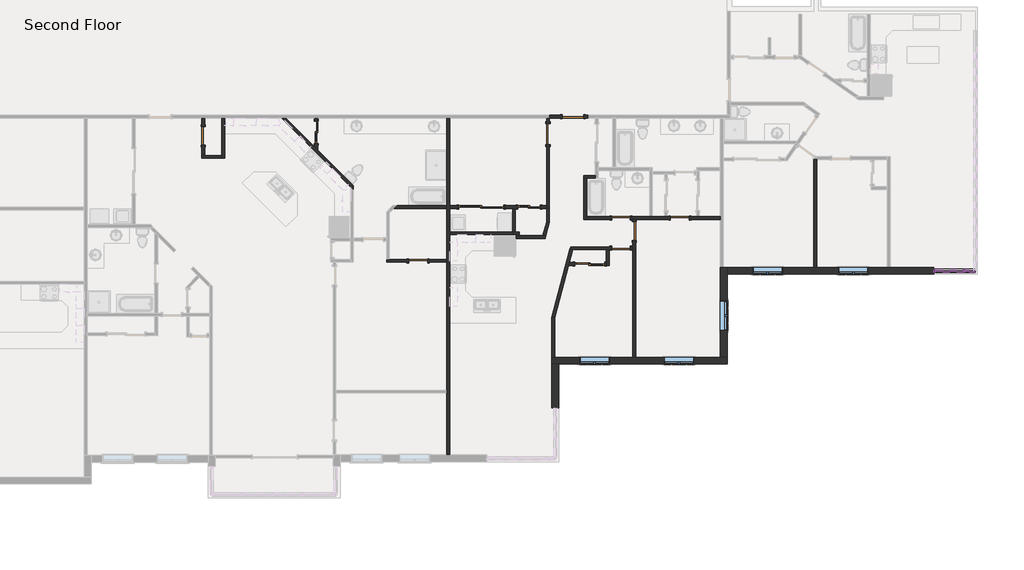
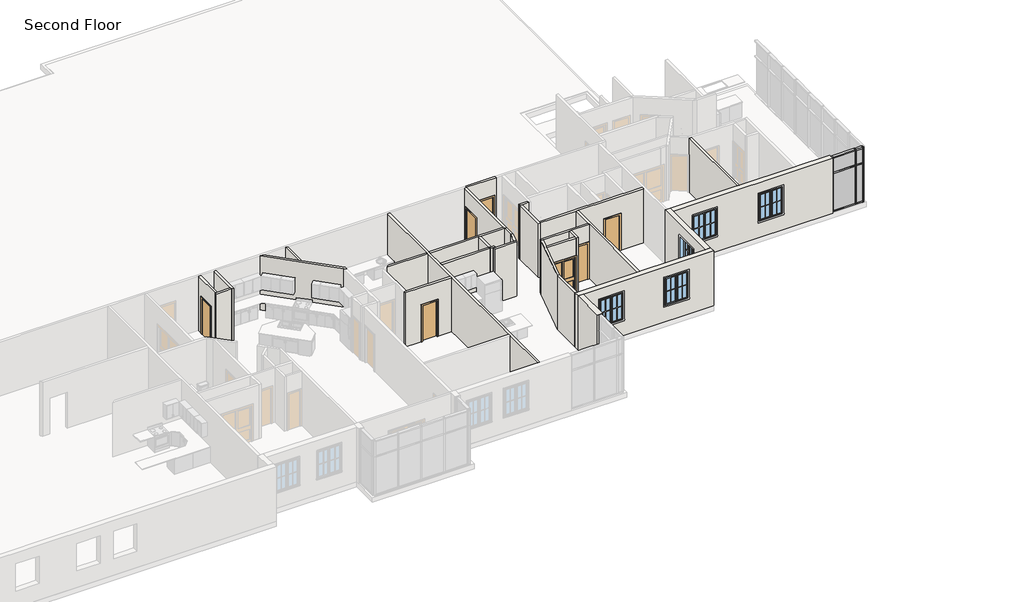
# One storey, part 5 of 17: 32 walls, 12 doors, 12 members, 5 windows, 4 plates.
"""IFC4 building model written with IfcOpenShell, lengths in millimetres."""

from ifc_helpers import new_model, si_unit, frame, origin, place, context, project, spatial, polyline, outline, extrude, faceted_brep, transform, mapped, element, save
from components import door_d8f5dbb5, door_f2b275c1, door_825b8444, door_c29894e6, door_88c23cd7, door_900f836f, door_caaf2a11, rectangular_mullion_rectangular_mullion_1_fa3625a1, rectangular_mullion_rectangular_mullion_1_7cbf0b94, rectangular_mullion_rectangular_mullion_1_6186cc23, rectangular_mullion_rectangular_mullion_1_049a2e78, rectangular_mullion_rectangular_mullion_1_a50b3cda, rectangular_mullion_rectangular_mullion_1_5cd4c5ac, rectangular_mullion_rectangular_mullion_1_64aff199, rectangular_mullion_rectangular_mullion_1_b6c962ab, system_panel_glazed_0ed27d1d, system_panel_glazed_134bacdb, system_panel_glazed_a3383988, system_panel_glazed_d9a092fd, window_33528cc2

model = new_model("IFC4")

# Units and contexts
model_context = context("Model", 3, world=origin())
ifc_project = project(units=[si_unit("LENGTHUNIT", "METRE", prefix="MILLI")], contexts=[model_context])

# Site, building, storey
site = spatial("IfcSite", under=ifc_project)
building = spatial("IfcBuilding", under=site)
storey = spatial("IfcBuildingStorey", under=building, Name="Second Floor", Elevation=3048.0)

# Doors
placement = place(None, origin())
door_shape = door_d8f5dbb5(model_context)
element("IfcDoor", 1, ObjectType="Single-Flush : 30\" x 80\"", at=placement, inside=storey, context=model_context, shape_type="MappedRepresentation", body=[
    mapped(door_shape, transform((40944.0341819, -10517.1896208, 3048.0), x_axis=(1.0, 0.0, 0.0), y_axis=(0.0, 1.0, 0.0), z_axis=(0.0, 0.0, 1.0))),
])
element("IfcDoor", 2, ObjectType="Single-Flush : 30\" x 80\"", at=placement, inside=storey, context=model_context, shape_type="MappedRepresentation", body=[
    mapped(door_shape, transform((32213.1466966, -5438.7917963, 3048.0), x_axis=(0.0, 1.0, 0.0), y_axis=(-1.0, 0.0, 0.0), z_axis=(0.0, 0.0, 1.0))),
])
door_2_shape = door_f2b275c1(model_context)
element("IfcDoor", 3, ObjectType="Single-Flush : 30\" x 80\"", at=placement, inside=storey, context=model_context, shape_type="MappedRepresentation", body=[
    mapped(door_2_shape, transform((49185.2164857, -10003.6934793, 3048.0), x_axis=(1.0, 0.0, 0.0), y_axis=(0.0, 1.0, 0.0), z_axis=(0.0, 0.0, 1.0))),
])
element("IfcDoor", 4, ObjectType="Single-Flush : 30\" x 80\"", at=placement, inside=storey, context=model_context, shape_type="MappedRepresentation", body=[
    mapped(door_2_shape, transform((49722.0869446, -9306.0763206, 3048.0), x_axis=(0.0, 1.0, 0.0), y_axis=(-1.0, 0.0, 0.0), z_axis=(0.0, 0.0, 1.0))),
])
element("IfcDoor", 5, ObjectType="Single-Flush : 30\" x 80\"", at=placement, inside=storey, context=model_context, shape_type="MappedRepresentation", body=[
    mapped(door_2_shape, transform((51578.0008306, -8772.6763206, 3048.0), x_axis=(-1.0, 0.0, 0.0), y_axis=(0.0, -1.0, 0.0), z_axis=(0.0, 0.0, 1.0))),
])
element("IfcDoor", 6, ObjectType="Single-Flush : 30\" x 80\"", at=placement, inside=storey, context=model_context, shape_type="MappedRepresentation", body=[
    mapped(door_2_shape, transform((49188.6869446, -8772.6763206, 3048.0), x_axis=(-1.0, 0.0, 0.0), y_axis=(0.0, -1.0, 0.0), z_axis=(0.0, 0.0, 1.0))),
])
door_3_shape = door_825b8444(model_context)
element("IfcDoor", 7, ObjectType="Single-Flush : 34\" x 80\"", at=placement, inside=storey, context=model_context, shape_type="MappedRepresentation", body=[
    mapped(door_3_shape, transform((47235.4550668, -4651.3917963, 3048.0), x_axis=(1.0, 0.0, 0.0), y_axis=(0.0, 1.0, 0.0), z_axis=(0.0, 0.0, 1.0))),
])
door_4_shape = door_c29894e6(model_context)
element("IfcDoor", 8, ObjectType="Single-Flush : 34\" x 80\"", at=placement, inside=storey, context=model_context, shape_type="MappedRepresentation", body=[
    mapped(door_4_shape, transform((46219.4550668, -5362.5917963, 3048.0), x_axis=(0.0, 1.0, 0.0), y_axis=(-1.0, 0.0, 0.0), z_axis=(0.0, 0.0, 1.0))),
])
door_5_shape = door_88c23cd7(model_context)
element("IfcDoor", 9, ObjectType="Sliding-Closet : 36\" x 80\"", at=placement, inside=storey, context=model_context, shape_type="MappedRepresentation", body=[
    mapped(door_5_shape, transform((45452.5275875, -8462.220689, 3048.0), x_axis=(1.0, 0.0, 0.0), y_axis=(0.0, 1.0, 0.0), z_axis=(0.0, 0.0, 1.0))),
])
element("IfcDoor", 10, ObjectType="Sliding-Closet : 36\" x 80\"", at=placement, inside=storey, context=model_context, shape_type="MappedRepresentation", body=[
    mapped(door_5_shape, transform((36679.0005062, -5286.3917963, 3048.0), x_axis=(0.0, -1.0, 0.0), y_axis=(1.0, 0.0, 0.0), z_axis=(0.0, 0.0, 1.0))),
])
door_6_shape = door_900f836f(model_context)
element("IfcDoor", 11, ObjectType="Sliding-Closet : 48\" x 80\"", at=placement, inside=storey, context=model_context, shape_type="MappedRepresentation", body=[
    mapped(door_6_shape, transform((47911.7460269, -10519.7402375, 3048.0), x_axis=(-1.0, 0.0, 0.0), y_axis=(0.0, -1.0, 0.0), z_axis=(0.0, 0.0, 1.0))),
])
door_7_shape = door_caaf2a11(model_context)
element("IfcDoor", 12, ObjectType="Sliding-Closet : 72\" x 80\"", at=placement, inside=storey, context=model_context, shape_type="MappedRepresentation", body=[
    mapped(door_7_shape, transform((43502.5485687, -8462.220689, 3048.0), x_axis=(1.0, 0.0, 0.0), y_axis=(0.0, 1.0, 0.0), z_axis=(0.0, 0.0, 1.0))),
])

# Members
rectangular_mullion_rectangular_mullion_1_shape = rectangular_mullion_rectangular_mullion_1_fa3625a1(model_context)
element("IfcMember", 13, ObjectType="Rectangular Mullion : Rectangular Mullion 1", at=placement, inside=storey, context=model_context, shape_type="MappedRepresentation", body=[
    mapped(rectangular_mullion_rectangular_mullion_1_shape, transform((63120.5712707, -10920.5254097, 6096.0), x_axis=(0.0, 0.0, 1.0), y_axis=(0.0, -1.0, 0.0), z_axis=(1.0, 0.0, 0.0))),
])
element("IfcMember", 14, ObjectType="Rectangular Mullion : Rectangular Mullion 1", at=placement, inside=storey, context=model_context, shape_type="MappedRepresentation", body=[
    mapped(rectangular_mullion_rectangular_mullion_1_shape, transform((61964.8712704, -10920.5254097, 3048.0), x_axis=(0.0, 0.0, -1.0), y_axis=(0.0, -1.0, 0.0), z_axis=(-1.0, 0.0, 0.0))),
])
rectangular_mullion_rectangular_mullion_1_2_shape = rectangular_mullion_rectangular_mullion_1_7cbf0b94(model_context)
element("IfcMember", 15, ObjectType="Rectangular Mullion : Rectangular Mullion 1", at=placement, inside=storey, context=model_context, shape_type="MappedRepresentation", body=[
    mapped(rectangular_mullion_rectangular_mullion_1_2_shape, transform((63120.5712707, -10920.5254097, 5213.35), x_axis=(0.0, 0.0, 1.0), y_axis=(0.0, -1.0, 0.0), z_axis=(1.0, 0.0, 0.0))),
])
rectangular_mullion_rectangular_mullion_1_3_shape = rectangular_mullion_rectangular_mullion_1_6186cc23(model_context)
element("IfcMember", 16, ObjectType="Rectangular Mullion : Rectangular Mullion 1", at=placement, inside=storey, context=model_context, shape_type="MappedRepresentation", body=[
    mapped(rectangular_mullion_rectangular_mullion_1_3_shape, transform((63152.3212707, -10920.5254097, 3048.0), x_axis=(1.0, 0.0, 0.0), y_axis=(0.0, -1.0, 0.0), z_axis=(0.0, 0.0, -1.0))),
])
rectangular_mullion_rectangular_mullion_1_4_shape = rectangular_mullion_rectangular_mullion_1_049a2e78(model_context)
element("IfcMember", 17, ObjectType="Rectangular Mullion : Rectangular Mullion 1", at=placement, inside=storey, context=model_context, shape_type="MappedRepresentation", body=[
    mapped(rectangular_mullion_rectangular_mullion_1_4_shape, transform((63152.3212707, -10920.5254097, 5213.35), x_axis=(1.0, 0.0, 0.0), y_axis=(0.0, -1.0, 0.0), z_axis=(0.0, 0.0, -1.0))),
])
rectangular_mullion_rectangular_mullion_1_5_shape = rectangular_mullion_rectangular_mullion_1_a50b3cda(model_context)
element("IfcMember", 18, ObjectType="Rectangular Mullion : Rectangular Mullion 1", at=placement, inside=storey, context=model_context, shape_type="MappedRepresentation", body=[
    mapped(rectangular_mullion_rectangular_mullion_1_5_shape, transform((63577.7712704, -10920.5254097, 3048.0), x_axis=(1.0, 0.0, 0.0), y_axis=(0.0, -1.0, 0.0), z_axis=(0.0, 0.0, -1.0))),
])
rectangular_mullion_rectangular_mullion_1_6_shape = rectangular_mullion_rectangular_mullion_1_5cd4c5ac(model_context)
element("IfcMember", 19, ObjectType="Rectangular Mullion : Rectangular Mullion 1", at=placement, inside=storey, context=model_context, shape_type="MappedRepresentation", body=[
    mapped(rectangular_mullion_rectangular_mullion_1_6_shape, transform((63577.7712704, -10920.5254097, 5213.35), x_axis=(1.0, 0.0, 0.0), y_axis=(0.0, -1.0, 0.0), z_axis=(0.0, 0.0, -1.0))),
])
element("IfcMember", 20, ObjectType="Rectangular Mullion : Rectangular Mullion 1", at=placement, inside=storey, context=model_context, shape_type="MappedRepresentation", body=[
    mapped(rectangular_mullion_rectangular_mullion_1_6_shape, transform((61901.3712704, -10920.5254097, 6096.0), x_axis=(-1.0, 0.0, 0.0), y_axis=(0.0, -1.0, 0.0), z_axis=(0.0, 0.0, 1.0))),
])
element("IfcMember", 21, ObjectType="Rectangular Mullion : Rectangular Mullion 1", at=placement, inside=storey, context=model_context, shape_type="MappedRepresentation", body=[
    mapped(rectangular_mullion_rectangular_mullion_1_5_shape, transform((61901.3712704, -10920.5254097, 5213.35), x_axis=(-1.0, 0.0, 0.0), y_axis=(0.0, -1.0, 0.0), z_axis=(0.0, 0.0, 1.0))),
])
rectangular_mullion_rectangular_mullion_1_7_shape = rectangular_mullion_rectangular_mullion_1_64aff199(model_context)
element("IfcMember", 22, ObjectType="Rectangular Mullion : Rectangular Mullion 1", at=placement, inside=storey, context=model_context, shape_type="MappedRepresentation", body=[
    mapped(rectangular_mullion_rectangular_mullion_1_7_shape, transform((63514.2712704, -10920.5254097, 6096.0), x_axis=(0.0, 0.0, 1.0), y_axis=(0.0, -1.0, 0.0), z_axis=(1.0, 0.0, 0.0))),
])
element("IfcMember", 23, ObjectType="Rectangular Mullion : Rectangular Mullion 1", at=placement, inside=storey, context=model_context, shape_type="MappedRepresentation", body=[
    mapped(rectangular_mullion_rectangular_mullion_1_7_shape, transform((63184.0712707, -10920.5254097, 3048.0), x_axis=(0.0, 0.0, -1.0), y_axis=(0.0, -1.0, 0.0), z_axis=(-1.0, 0.0, 0.0))),
])
rectangular_mullion_rectangular_mullion_1_8_shape = rectangular_mullion_rectangular_mullion_1_b6c962ab(model_context)
element("IfcMember", 24, ObjectType="Rectangular Mullion : Rectangular Mullion 1", at=placement, inside=storey, context=model_context, shape_type="MappedRepresentation", body=[
    mapped(rectangular_mullion_rectangular_mullion_1_8_shape, transform((63514.2712704, -10920.5254097, 5213.35), x_axis=(0.0, 0.0, 1.0), y_axis=(0.0, -1.0, 0.0), z_axis=(1.0, 0.0, 0.0))),
])

# Plates
system_panel_glazed_shape = system_panel_glazed_0ed27d1d(model_context)
element("IfcPlate", 25, ObjectType="System Panel : Glazed", at=placement, inside=storey, context=model_context, shape_type="MappedRepresentation", body=[
    mapped(system_panel_glazed_shape, transform((62542.7212705, -10920.5254097, 3111.5), x_axis=(1.0, 0.0, 0.0), y_axis=(0.0, 1.0, 0.0), z_axis=(0.0, 0.0, 1.0))),
])
system_panel_glazed_2_shape = system_panel_glazed_134bacdb(model_context)
element("IfcPlate", 26, ObjectType="System Panel : Glazed", at=placement, inside=storey, context=model_context, shape_type="MappedRepresentation", body=[
    mapped(system_panel_glazed_2_shape, transform((62542.7212705, -10920.5254097, 5245.1), x_axis=(1.0, 0.0, 0.0), y_axis=(0.0, 1.0, 0.0), z_axis=(0.0, 0.0, 1.0))),
])
system_panel_glazed_3_shape = system_panel_glazed_a3383988(model_context)
element("IfcPlate", 27, ObjectType="System Panel : Glazed", at=placement, inside=storey, context=model_context, shape_type="MappedRepresentation", body=[
    mapped(system_panel_glazed_3_shape, transform((63349.1712705, -10920.5254097, 3111.5), x_axis=(1.0, 0.0, 0.0), y_axis=(0.0, 1.0, 0.0), z_axis=(0.0, 0.0, 1.0))),
])
system_panel_glazed_4_shape = system_panel_glazed_d9a092fd(model_context)
element("IfcPlate", 28, ObjectType="System Panel : Glazed", at=placement, inside=storey, context=model_context, shape_type="MappedRepresentation", body=[
    mapped(system_panel_glazed_4_shape, transform((63349.1712705, -10920.5254097, 5245.1), x_axis=(1.0, 0.0, 0.0), y_axis=(0.0, 1.0, 0.0), z_axis=(0.0, 0.0, 1.0))),
])

# Walls
element("IfcWall", 29, ObjectType="Exterior - Brick on Wood Stud", at=placement, inside=storey, context=model_context, shape_type="Brep", body=[
    faceted_brep([(46370.0422255, -14719.4129097, 3048.0), (46652.6172255, -14719.4129097, 3048.0), (53508.2587704, -14719.4129097, 3048.0), (53508.2587704, -14719.4129097, 6096.0), (46652.6172255, -14719.4129097, 6096.0), (46370.0422255, -14719.4129097, 6096.0), (50934.9291075, -14719.4129097, 5486.4), (52154.1291075, -14719.4129097, 5486.4), (52154.1291075, -14719.4129097, 3962.4), (50934.9291075, -14719.4129097, 3962.4), (47507.1083351, -14719.4129097, 5486.4), (48726.3083351, -14719.4129097, 5486.4), (48726.3083351, -14719.4129097, 3962.4), (47507.1083351, -14719.4129097, 3962.4), (46370.0422255, -14436.8379097, 3048.0), (46370.0422255, -14436.8379097, 6096.0), (46484.3422255, -14436.8379097, 6096.0), (49664.9369446, -14436.8379097, 6096.0), (49779.2369446, -14436.8379097, 6096.0), (53225.6837704, -14436.8379097, 6096.0), (53508.2587704, -14436.8379097, 6096.0), (53508.2587704, -14436.8379097, 3048.0), (53225.6837704, -14436.8379097, 3048.0), (49779.2369446, -14436.8379097, 3048.0), (49664.9369446, -14436.8379097, 3048.0), (46484.3422255, -14436.8379097, 3048.0), (50934.9291075, -14436.8379097, 5486.4), (50934.9291075, -14436.8379097, 3962.4), (52154.1291075, -14436.8379097, 3962.4), (52154.1291075, -14436.8379097, 5486.4), (47507.1083351, -14436.8379097, 5486.4), (47507.1083351, -14436.8379097, 3962.4), (48726.3083351, -14436.8379097, 3962.4), (48726.3083351, -14436.8379097, 5486.4)], [[[0, 1, 2, 3, 4, 5], [6, 7, 8, 9], [10, 11, 12, 13]], [[14, 15, 16, 17, 18, 19, 20, 21, 22, 23, 24, 25], [26, 27, 28, 29], [30, 31, 32, 33]], [[2, 1, 0, 14, 25, 24, 23, 22, 21]], [[5, 4, 3, 20, 19, 18, 17, 16, 15]], [[27, 26, 6, 9]], [[28, 27, 9, 8]], [[29, 28, 8, 7]], [[26, 29, 7, 6]], [[31, 30, 10, 13]], [[32, 31, 13, 12]], [[33, 32, 12, 11]], [[30, 33, 11, 10]], [[0, 5, 15, 14]], [[3, 2, 21, 20]]]),
])
element("IfcWall", 30, ObjectType="Exterior - Brick on Wood Stud", at=placement, inside=storey, context=model_context, shape_type="Brep", body=[
    faceted_brep([(53508.2587704, -14436.8379097, 3048.0), (53508.2587704, -11061.8129097, 3048.0), (53508.2587704, -10779.2379097, 3048.0), (53508.2587704, -10779.2379097, 6096.0), (53508.2587704, -11061.8129097, 6096.0), (53508.2587704, -14436.8379097, 6096.0), (53508.2587704, -13358.9254097, 5486.4), (53508.2587704, -12139.7254097, 5486.4), (53508.2587704, -12139.7254097, 3962.4), (53508.2587704, -13358.9254097, 3962.4), (53225.6837704, -14436.8379097, 3048.0), (53225.6837704, -14436.8379097, 6096.0), (53225.6837704, -10779.2379097, 6096.0), (53225.6837704, -10779.2379097, 3048.0), (53225.6837704, -13358.9254097, 5486.4), (53225.6837704, -13358.9254097, 3962.4), (53225.6837704, -12139.7254097, 3962.4), (53225.6837704, -12139.7254097, 5486.4), (53339.9837704, -10779.2379097, 3048.0), (53339.9837704, -10779.2379097, 6096.0)], [[[0, 1, 2, 3, 4, 5], [6, 7, 8, 9]], [[10, 11, 12, 13], [14, 15, 16, 17]], [[2, 1, 0, 10, 13, 18]], [[5, 4, 3, 19, 12, 11]], [[15, 14, 6, 9]], [[16, 15, 9, 8]], [[17, 16, 8, 7]], [[14, 17, 7, 6]], [[3, 2, 18, 13, 12, 19]], [[0, 5, 11, 10]]]),
])
element("IfcWall", 31, ObjectType="Exterior - Brick on Wood Stud", at=placement, inside=storey, context=model_context, shape_type="Brep", body=[
    faceted_brep([(53508.2587704, -11061.8129097, 3048.0), (61901.3712704, -11061.8129097, 3048.0), (61901.3712704, -11061.8129097, 6096.0), (53508.2587704, -11061.8129097, 6096.0), (58021.3646499, -11061.8129097, 5486.4), (59240.5646499, -11061.8129097, 5486.4), (59240.5646499, -11061.8129097, 3962.4), (58021.3646499, -11061.8129097, 3962.4), (54535.3712704, -11061.8129097, 5486.4), (55754.5712704, -11061.8129097, 5486.4), (55754.5712704, -11061.8129097, 3962.4), (54535.3712704, -11061.8129097, 3962.4), (53508.2587704, -10779.2379097, 3048.0), (53508.2587704, -10779.2379097, 6096.0), (57029.5575892, -10779.2379097, 6096.0), (57143.8575892, -10779.2379097, 6096.0), (60016.4717107, -10779.2379097, 6096.0), (60130.7717107, -10779.2379097, 6096.0), (61901.3712704, -10779.2379097, 6096.0), (61901.3712704, -10779.2379097, 3048.0), (60130.7717107, -10779.2379097, 3048.0), (60016.4717107, -10779.2379097, 3048.0), (57143.8575892, -10779.2379097, 3048.0), (57029.5575892, -10779.2379097, 3048.0), (58021.3646499, -10779.2379097, 5486.4), (58021.3646499, -10779.2379097, 3962.4), (59240.5646499, -10779.2379097, 3962.4), (59240.5646499, -10779.2379097, 5486.4), (54535.3712704, -10779.2379097, 5486.4), (54535.3712704, -10779.2379097, 3962.4), (55754.5712704, -10779.2379097, 3962.4), (55754.5712704, -10779.2379097, 5486.4)], [[[0, 1, 2, 3], [4, 5, 6, 7], [8, 9, 10, 11]], [[12, 13, 14, 15, 16, 17, 18, 19, 20, 21, 22, 23], [24, 25, 26, 27], [28, 29, 30, 31]], [[1, 0, 12, 23, 22, 21, 20, 19]], [[2, 1, 19, 18]], [[3, 2, 18, 17, 16, 15, 14, 13]], [[25, 24, 4, 7]], [[26, 25, 7, 6]], [[27, 26, 6, 5]], [[24, 27, 5, 4]], [[29, 28, 8, 11]], [[30, 29, 11, 10]], [[31, 30, 10, 9]], [[28, 31, 9, 8]], [[0, 3, 13, 12]]]),
])
element("IfcWall", 32, ObjectType="Exterior - Brick on Wood Stud", at=placement, inside=storey, context=model_context, shape_type="SweptSolid", body=[
    extrude(outline(polyline([(46652.6172255, -14719.4129097), (46652.6172255, -16495.3488497), (46370.0422255, -16495.3488497), (46370.0422255, -14719.4129097), (46652.6172255, -14719.4129097)])), frame((0.0, 0.0, 3048.0), z_axis=(0.0, 0.0, 1.0), x_axis=(1.0, 0.0, 0.0)), (0.0, 0.0, 1.0), 3048.0),
])
element("IfcWall", 33, ObjectType="Interior - 4 1/2\" Partition", at=placement, inside=storey, context=model_context, shape_type="Brep", body=[
    faceted_brep([(42109.9470292, -4708.5417963, 3048.0), (42109.9470292, -8278.070689, 3048.0), (42109.9470292, -8392.370689, 3048.0), (42109.9470292, -10460.0396208, 3048.0), (42109.9470292, -10574.3396208, 3048.0), (42109.9470292, -15784.9064679, 3048.0), (42109.9470292, -15899.2064679, 3048.0), (42109.9470292, -18414.3743072, 3048.0), (42109.9470292, -18414.3743072, 6096.0), (42109.9470292, -15899.2064679, 6096.0), (42109.9470292, -15784.9064679, 6096.0), (42109.9470292, -10574.3396208, 6096.0), (42109.9470292, -10460.0396208, 6096.0), (42109.9470292, -8392.370689, 6096.0), (42109.9470292, -8278.070689, 6096.0), (42109.9470292, -4708.5417963, 6096.0), (42224.2470292, -4708.5417963, 3048.0), (42224.2470292, -4708.5417963, 6096.0), (42224.2470292, -8278.070689, 6096.0), (42224.2470292, -8392.370689, 6096.0), (42224.2470292, -9338.0876998, 6096.0), (42224.2470292, -9452.3876998, 6096.0), (42224.2470292, -18414.3743072, 6096.0), (42224.2470292, -18414.3743072, 3048.0), (42224.2470292, -9452.3876998, 3048.0), (42224.2470292, -9338.0876998, 3048.0), (42224.2470292, -8392.370689, 3048.0), (42224.2470292, -8278.070689, 3048.0)], [[[0, 1, 2, 3, 4, 5, 6, 7, 8, 9, 10, 11, 12, 13, 14, 15]], [[16, 17, 18, 19, 20, 21, 22, 23, 24, 25, 26, 27]], [[7, 6, 5, 4, 3, 2, 1, 0, 16, 27, 26, 25, 24, 23]], [[15, 14, 13, 12, 11, 10, 9, 8, 22, 21, 20, 19, 18, 17]], [[0, 15, 17, 16]], [[8, 7, 23, 22]]]),
])
element("IfcWall", 34, ObjectType="Interior - 4 1/2\" Partition", at=placement, inside=storey, context=model_context, shape_type="Brep", body=[
    faceted_brep([(38310.9505062, -7451.1325257, 3048.0), (36863.1505062, -6003.3325257, 3048.0), (36748.8505062, -5889.0325257, 3048.0), (35568.3597768, -4708.5417963, 3048.0), (35568.3597768, -4708.5417963, 6096.0), (36748.8505062, -5889.0325257, 6096.0), (36863.1505062, -6003.3325257, 6096.0), (38310.9505062, -7451.1325257, 6096.0), (38310.9505062, -7612.7771359, 3048.0), (38310.9505062, -7612.7771359, 6096.0), (38196.6505062, -7498.4771359, 6096.0), (35406.7151666, -4708.5417963, 6096.0), (35406.7151666, -4708.5417963, 3048.0), (38196.6505062, -7498.4771359, 3048.0)], [[[0, 1, 2, 3, 4, 5, 6, 7]], [[8, 9, 10, 11, 12, 13]], [[3, 2, 1, 0, 8, 13, 12]], [[7, 6, 5, 4, 11, 10, 9]], [[0, 7, 9, 8]], [[4, 3, 12, 11]]]),
])
element("IfcWall", 35, ObjectType="Interior - 4 1/2\" Partition", at=placement, inside=storey, context=model_context, shape_type="Brep", body=[
    faceted_brep([(42109.9470292, -10460.0396208, 3048.0), (41325.0341819, -10460.0396208, 3048.0), (41325.0341819, -10460.0396208, 5080.0), (40563.0341819, -10460.0396208, 5080.0), (40563.0341819, -10460.0396208, 3048.0), (39778.1213345, -10460.0396208, 3048.0), (39663.8213345, -10460.0396208, 3048.0), (39663.8213345, -10460.0396208, 6096.0), (39778.1213345, -10460.0396208, 6096.0), (42109.9470292, -10460.0396208, 6096.0), (41325.0341819, -10574.3396208, 5080.0), (41325.0341819, -10574.3396208, 3048.0), (42109.9470292, -10574.3396208, 3048.0), (42109.9470292, -10574.3396208, 6096.0), (39663.8213345, -10574.3396208, 6096.0), (39663.8213345, -10574.3396208, 3048.0), (40563.0341819, -10574.3396208, 3048.0), (40563.0341819, -10574.3396208, 5080.0)], [[[0, 1, 2, 3, 4, 5, 6, 7, 8, 9]], [[10, 11, 12, 13, 14, 15, 16, 17]], [[16, 15, 6, 5, 4]], [[12, 11, 1, 0]], [[9, 8, 7, 14, 13]], [[2, 1, 11, 10]], [[3, 2, 10, 17]], [[4, 3, 17, 16]], [[7, 6, 15, 14]], [[0, 9, 13, 12]]]),
])
element("IfcWall", 36, ObjectType="Interior - 4 1/2\" Partition", at=placement, inside=storey, context=model_context, shape_type="SweptSolid", body=[
    extrude(outline(polyline([(42109.9470292, -8392.370689), (39960.1697865, -8392.370689), (40074.4697865, -8278.070689), (42109.9470292, -8278.070689), (42109.9470292, -8392.370689)])), frame((0.0, 0.0, 3048.0), z_axis=(0.0, 0.0, 1.0), x_axis=(1.0, 0.0, 0.0)), (0.0, 0.0, 1.0), 3048.0),
])
element("IfcWall", 37, ObjectType="Interior - 4 1/2\" Partition", at=placement, inside=storey, context=model_context, shape_type="Brep", body=[
    faceted_brep([(32968.7966966, -4708.5417963, 3048.0), (32968.7966966, -6227.7127707, 3048.0), (32968.7966966, -6342.0127707, 3048.0), (32968.7966966, -6342.0127707, 6096.0), (32968.7966966, -6227.7127707, 6096.0), (32968.7966966, -4708.5417963, 6096.0), (33083.0966966, -4708.5417963, 3048.0), (33083.0966966, -4708.5417963, 6096.0), (33083.0966966, -6342.0127707, 6096.0), (33083.0966966, -6342.0127707, 3048.0)], [[[0, 1, 2, 3, 4, 5]], [[6, 7, 8, 9]], [[2, 1, 0, 6, 9]], [[5, 4, 3, 8, 7]], [[3, 2, 9, 8]], [[0, 5, 7, 6]]]),
])
element("IfcWall", 38, ObjectType="Interior - 4 1/2\" Partition", at=placement, inside=storey, context=model_context, shape_type="Brep", body=[
    faceted_brep([(32968.7966966, -6227.7127707, 3048.0), (32270.2966966, -6227.7127707, 3048.0), (32155.9966966, -6227.7127707, 3048.0), (32155.9966966, -6227.7127707, 6096.0), (32270.2966966, -6227.7127707, 6096.0), (32968.7966966, -6227.7127707, 6096.0), (32968.7966966, -6342.0127707, 3048.0), (32968.7966966, -6342.0127707, 6096.0), (32155.9966966, -6342.0127707, 6096.0), (32155.9966966, -6342.0127707, 3048.0)], [[[0, 1, 2, 3, 4, 5]], [[6, 7, 8, 9]], [[2, 1, 0, 6, 9]], [[5, 4, 3, 8, 7]], [[3, 2, 9, 8]], [[0, 5, 7, 6]]]),
])
element("IfcWall", 39, ObjectType="Interior - 4 1/2\" Partition", at=placement, inside=storey, context=model_context, shape_type="SweptSolid", body=[
    extrude(outline(polyline([(-4708.5417963, 3048.0), (-5057.7917963, 3048.0), (-5057.7917963, 5080.0), (-5819.7917963, 5080.0), (-5819.7917963, 3048.0), (-6227.7127707, 3048.0), (-6227.7127707, 6096.0), (-4708.5417963, 6096.0), (-4708.5417963, 3048.0)])), frame((32155.9966966, 0.0, 0.0), z_axis=(1.0, 0.0, 0.0), x_axis=(0.0, 1.0, 0.0)), (0.0, 0.0, 1.0), 114.3),
])
element("IfcWall", 40, ObjectType="Interior - 4 1/2\" Partition", at=placement, inside=storey, context=model_context, shape_type="Brep", body=[
    faceted_brep([(46162.3050668, -4708.5417963, 3048.0), (46162.3050668, -4930.7917963, 3048.0), (46162.3050668, -4930.7917963, 5080.0), (46162.3050668, -5794.3917963, 5080.0), (46162.3050668, -5794.3917963, 3048.0), (46162.3050668, -8278.070689, 3048.0), (46162.3050668, -8392.370689, 3048.0), (46162.3050668, -8392.370689, 6096.0), (46162.3050668, -8278.070689, 6096.0), (46162.3050668, -4708.5417963, 6096.0), (46276.6050668, -4930.7917963, 5080.0), (46276.6050668, -4930.7917963, 3048.0), (46276.6050668, -4708.5417963, 3048.0), (46276.6050668, -4708.5417963, 6096.0), (46276.6050668, -8392.370689, 6096.0), (46276.6050668, -8392.370689, 3048.0), (46276.6050668, -5794.3917963, 3048.0), (46276.6050668, -5794.3917963, 5080.0)], [[[0, 1, 2, 3, 4, 5, 6, 7, 8, 9]], [[10, 11, 12, 13, 14, 15, 16, 17]], [[16, 15, 6, 5, 4]], [[12, 11, 1, 0]], [[9, 8, 7, 14, 13]], [[2, 1, 11, 10]], [[3, 2, 10, 17]], [[4, 3, 17, 16]], [[7, 6, 15, 14]], [[0, 9, 13, 12]]]),
])
element("IfcWall", 41, ObjectType="Interior - 4 1/2\" Partition", at=placement, inside=storey, context=model_context, shape_type="SweptSolid", body=[
    extrude(outline(polyline([(5080.0, 47667.2550668), (3048.0, 47667.2550668), (3048.0, 47845.0550668), (6096.0, 47845.0550668), (6096.0, 46276.6050668), (3048.0, 46276.6050668), (3048.0, 46803.6550668), (5080.0, 46803.6550668), (5080.0, 47667.2550668)])), frame((0.0, -4708.5417963, 0.0), z_axis=(0.0, 1.0, 0.0), x_axis=(0.0, 0.0, 1.0)), (0.0, 0.0, 1.0), 114.3),
])
element("IfcWall", 42, ObjectType="Interior - 4 1/2\" Partition", at=placement, inside=storey, context=model_context, shape_type="Brep", body=[
    faceted_brep([(46162.3050668, -8278.070689, 3048.0), (45909.7275875, -8278.070689, 3048.0), (45909.7275875, -8278.070689, 5080.0), (44995.3275875, -8278.070689, 5080.0), (44995.3275875, -8278.070689, 3048.0), (44416.9485687, -8278.070689, 3048.0), (44416.9485687, -8278.070689, 5080.0), (42588.1485687, -8278.070689, 5080.0), (42588.1485687, -8278.070689, 3048.0), (42224.2470292, -8278.070689, 3048.0), (42224.2470292, -8278.070689, 6096.0), (46162.3050668, -8278.070689, 6096.0), (45909.7275875, -8392.370689, 5080.0), (45909.7275875, -8392.370689, 3048.0), (46162.3050668, -8392.370689, 3048.0), (46162.3050668, -8392.370689, 6096.0), (44895.1501082, -8392.370689, 6096.0), (44780.8501082, -8392.370689, 6096.0), (42224.2470292, -8392.370689, 6096.0), (42224.2470292, -8392.370689, 3048.0), (42588.1485687, -8392.370689, 3048.0), (42588.1485687, -8392.370689, 5080.0), (44416.9485687, -8392.370689, 5080.0), (44416.9485687, -8392.370689, 3048.0), (44780.8501082, -8392.370689, 3048.0), (44895.1501082, -8392.370689, 3048.0), (44995.3275875, -8392.370689, 3048.0), (44995.3275875, -8392.370689, 5080.0)], [[[0, 1, 2, 3, 4, 5, 6, 7, 8, 9, 10, 11]], [[12, 13, 14, 15, 16, 17, 18, 19, 20, 21, 22, 23, 24, 25, 26, 27]], [[20, 19, 9, 8]], [[14, 13, 1, 0]], [[26, 25, 24, 23, 5, 4]], [[11, 10, 18, 17, 16, 15]], [[8, 7, 21, 20]], [[6, 5, 23, 22]], [[7, 6, 22, 21]], [[4, 3, 27, 26]], [[2, 1, 13, 12]], [[3, 2, 12, 27]], [[0, 11, 15, 14]], [[10, 9, 19, 18]]]),
])
element("IfcWall", 43, ObjectType="Interior - 4 1/2\" Partition", at=placement, inside=storey, context=model_context, shape_type="SweptSolid", body=[
    extrude(outline(polyline([(46162.3050668, -8935.5417122), (46162.3050668, -8392.370689), (46276.6050668, -8392.370689), (46276.6050668, -8950.5895927), (46162.3050668, -8935.5417122)])), frame((0.0, 0.0, 3048.0), z_axis=(0.0, 0.0, 1.0), x_axis=(1.0, 0.0, 0.0)), (0.0, 0.0, 1.0), 3048.0),
])
element("IfcWall", 44, ObjectType="Interior - 4 1/2\" Partition", at=placement, inside=storey, context=model_context, shape_type="Brep", body=[
    faceted_brep([(46131.0628298, -9493.760616, 3048.0), (46012.7307624, -9493.760616, 3048.0), (45047.5501082, -9493.760616, 3048.0), (44933.2501082, -9493.760616, 3048.0), (44933.2501082, -9493.760616, 6096.0), (45047.5501082, -9493.760616, 6096.0), (46012.7307624, -9493.760616, 6096.0), (46131.0628298, -9493.760616, 6096.0), (46100.4362371, -9608.060616, 3048.0), (46100.4362371, -9608.060616, 6096.0), (44933.2501082, -9608.060616, 6096.0), (44933.2501082, -9608.060616, 3048.0)], [[[0, 1, 2, 3, 4, 5, 6, 7]], [[8, 9, 10, 11]], [[3, 2, 1, 0, 8, 11]], [[7, 6, 5, 4, 10, 9]], [[0, 7, 9, 8]], [[4, 3, 11, 10]]]),
])
element("IfcWall", 45, ObjectType="Interior - 4 1/2\" Partition", at=placement, inside=storey, context=model_context, shape_type="SweptSolid", body=[
    extrude(outline(polyline([(45047.5501082, -9452.3876998), (45047.5501082, -9493.760616), (44933.2501082, -9493.760616), (44933.2501082, -9452.3876998), (45047.5501082, -9452.3876998)])), frame((0.0, 0.0, 3048.0), z_axis=(0.0, 0.0, 1.0), x_axis=(1.0, 0.0, 0.0)), (0.0, 0.0, 1.0), 3048.0),
])
element("IfcWall", 46, ObjectType="Interior - 4 1/2\" Partition", at=placement, inside=storey, context=model_context, shape_type="Brep", body=[
    faceted_brep([(45047.5501082, -9338.0876998, 3048.0), (44895.1501082, -9338.0876998, 3048.0), (44780.8501082, -9338.0876998, 3048.0), (44780.8501082, -9338.0876998, 6096.0), (44895.1501082, -9338.0876998, 6096.0), (45047.5501082, -9338.0876998, 6096.0), (45047.5501082, -9452.3876998, 3048.0), (45047.5501082, -9452.3876998, 6096.0), (44933.2501082, -9452.3876998, 6096.0), (44780.8501082, -9452.3876998, 6096.0), (44780.8501082, -9452.3876998, 3048.0), (44933.2501082, -9452.3876998, 3048.0)], [[[0, 1, 2, 3, 4, 5]], [[6, 7, 8, 9, 10, 11]], [[2, 1, 0, 6, 11, 10]], [[5, 4, 3, 9, 8, 7]], [[3, 2, 10, 9]], [[0, 5, 7, 6]]]),
])
element("IfcWall", 47, ObjectType="Interior - 4 1/2\" Partition", at=placement, inside=storey, context=model_context, shape_type="SweptSolid", body=[
    extrude(outline(polyline([(44895.1501082, -8392.370689), (44895.1501082, -9338.0876998), (44780.8501082, -9338.0876998), (44780.8501082, -8392.370689), (44895.1501082, -8392.370689)])), frame((0.0, 0.0, 3048.0), z_axis=(0.0, 0.0, 1.0), x_axis=(1.0, 0.0, 0.0)), (0.0, 0.0, 1.0), 3048.0),
])
element("IfcWall", 48, ObjectType="Interior - 4 1/2\" Partition", at=placement, inside=storey, context=model_context, shape_type="Brep", body=[
    faceted_brep([(48143.5050668, -7042.3192831, 3048.0), (47676.7960269, -7042.3192831, 3048.0), (47676.7960269, -7042.3192831, 6096.0), (48143.5050668, -7042.3192831, 6096.0), (48143.5050668, -7156.6192831, 3048.0), (48143.5050668, -7156.6192831, 6096.0), (47791.0960269, -7156.6192831, 6096.0), (47676.7960269, -7156.6192831, 6096.0), (47676.7960269, -7156.6192831, 3048.0), (47791.0960269, -7156.6192831, 3048.0)], [[[0, 1, 2, 3]], [[4, 5, 6, 7, 8, 9]], [[1, 0, 4, 9, 8]], [[3, 2, 7, 6, 5]], [[2, 1, 8, 7]], [[0, 3, 5, 4]]]),
])
element("IfcWall", 49, ObjectType="Interior - 4 1/2\" Partition", at=placement, inside=storey, context=model_context, shape_type="Brep", body=[
    faceted_brep([(47676.7960269, -7156.6192831, 3048.0), (47676.7960269, -8829.8263206, 3048.0), (47676.7960269, -8829.8263206, 6096.0), (47676.7960269, -7156.6192831, 6096.0), (47791.0960269, -7156.6192831, 3048.0), (47791.0960269, -7156.6192831, 6096.0), (47791.0960269, -8715.5263206, 6096.0), (47791.0960269, -8829.8263206, 6096.0), (47791.0960269, -8829.8263206, 3048.0), (47791.0960269, -8715.5263206, 3048.0)], [[[0, 1, 2, 3]], [[4, 5, 6, 7, 8, 9]], [[1, 0, 4, 9, 8]], [[3, 2, 7, 6, 5]], [[2, 1, 8, 7]], [[0, 3, 5, 4]]]),
])
element("IfcWall", 50, ObjectType="Interior - 4 1/2\" Partition", at=placement, inside=storey, context=model_context, shape_type="Brep", body=[
    faceted_brep([(47791.0960269, -8829.8263206, 3048.0), (48807.6869446, -8829.8263206, 3048.0), (48807.6869446, -8829.8263206, 5080.0), (49569.6869446, -8829.8263206, 5080.0), (49569.6869446, -8829.8263206, 3048.0), (49664.9369446, -8829.8263206, 3048.0), (49779.2369446, -8829.8263206, 3048.0), (51197.0008306, -8829.8263206, 3048.0), (51197.0008306, -8829.8263206, 5080.0), (51959.0008306, -8829.8263206, 5080.0), (51959.0008306, -8829.8263206, 3048.0), (53225.6837704, -8829.8263206, 3048.0), (53225.6837704, -8829.8263206, 6096.0), (49779.2369446, -8829.8263206, 6096.0), (49664.9369446, -8829.8263206, 6096.0), (47791.0960269, -8829.8263206, 6096.0), (48807.6869446, -8715.5263206, 5080.0), (48807.6869446, -8715.5263206, 3048.0), (47791.0960269, -8715.5263206, 3048.0), (47791.0960269, -8715.5263206, 6096.0), (50352.4508306, -8715.5263206, 6096.0), (50466.7508306, -8715.5263206, 6096.0), (50962.0508306, -8715.5263206, 6096.0), (51076.3508306, -8715.5263206, 6096.0), (52256.4979881, -8715.5263206, 6096.0), (52370.7979881, -8715.5263206, 6096.0), (53225.6837704, -8715.5263206, 6096.0), (53225.6837704, -8715.5263206, 3048.0), (52370.7979881, -8715.5263206, 3048.0), (52256.4979881, -8715.5263206, 3048.0), (51959.0008306, -8715.5263206, 3048.0), (51959.0008306, -8715.5263206, 5080.0), (51197.0008306, -8715.5263206, 5080.0), (51197.0008306, -8715.5263206, 3048.0), (51076.3508306, -8715.5263206, 3048.0), (50962.0508306, -8715.5263206, 3048.0), (50466.7508306, -8715.5263206, 3048.0), (50352.4508306, -8715.5263206, 3048.0), (49569.6869446, -8715.5263206, 3048.0), (49569.6869446, -8715.5263206, 5080.0)], [[[0, 1, 2, 3, 4, 5, 6, 7, 8, 9, 10, 11, 12, 13, 14, 15]], [[16, 17, 18, 19, 20, 21, 22, 23, 24, 25, 26, 27, 28, 29, 30, 31, 32, 33, 34, 35, 36, 37, 38, 39]], [[30, 29, 28, 27, 11, 10]], [[18, 17, 1, 0]], [[38, 37, 36, 35, 34, 33, 7, 6, 5, 4]], [[15, 14, 13, 12, 26, 25, 24, 23, 22, 21, 20, 19]], [[8, 7, 33, 32]], [[9, 8, 32, 31]], [[10, 9, 31, 30]], [[2, 1, 17, 16]], [[3, 2, 16, 39]], [[4, 3, 39, 38]], [[0, 15, 19, 18]], [[12, 11, 27, 26]]]),
])
element("IfcWall", 51, ObjectType="Interior - 4 1/2\" Partition", at=placement, inside=storey, context=model_context, shape_type="Brep", body=[
    faceted_brep([(49779.2369446, -8925.0763206, 5080.0), (49779.2369446, -8925.0763206, 3048.0), (49779.2369446, -8829.8263206, 3048.0), (49779.2369446, -8829.8263206, 6096.0), (49779.2369446, -14436.8379097, 6096.0), (49779.2369446, -14436.8379097, 3048.0), (49779.2369446, -9687.0763206, 3048.0), (49779.2369446, -9687.0763206, 5080.0), (49664.9369446, -8829.8263206, 3048.0), (49664.9369446, -8925.0763206, 3048.0), (49664.9369446, -8925.0763206, 5080.0), (49664.9369446, -9687.0763206, 5080.0), (49664.9369446, -9687.0763206, 3048.0), (49664.9369446, -9946.5434793, 3048.0), (49664.9369446, -10060.8434793, 3048.0), (49664.9369446, -14436.8379097, 3048.0), (49664.9369446, -14436.8379097, 6096.0), (49664.9369446, -10060.8434793, 6096.0), (49664.9369446, -9946.5434793, 6096.0), (49664.9369446, -8829.8263206, 6096.0)], [[[0, 1, 2, 3, 4, 5, 6, 7]], [[8, 9, 10, 11, 12, 13, 14, 15, 16, 17, 18, 19]], [[6, 5, 15, 14, 13, 12]], [[2, 1, 9, 8]], [[4, 3, 19, 18, 17, 16]], [[10, 9, 1, 0]], [[11, 10, 0, 7]], [[12, 11, 7, 6]], [[3, 2, 8, 19]], [[5, 4, 16, 15]]]),
])
element("IfcWall", 52, ObjectType="Interior - 4 1/2\" Partition", at=placement, inside=storey, context=model_context, shape_type="Brep", body=[
    faceted_brep([(49664.9369446, -9946.5434793, 3048.0), (49566.2164857, -9946.5434793, 3048.0), (49566.2164857, -9946.5434793, 5080.0), (48804.2164857, -9946.5434793, 5080.0), (48804.2164857, -9946.5434793, 3048.0), (47138.2342072, -9946.5434793, 3048.0), (47138.2342072, -9946.5434793, 6096.0), (49664.9369446, -9946.5434793, 6096.0), (49566.2164857, -10060.8434793, 5080.0), (49566.2164857, -10060.8434793, 3048.0), (49664.9369446, -10060.8434793, 3048.0), (49664.9369446, -10060.8434793, 6096.0), (48705.4960269, -10060.8434793, 6096.0), (48591.1960269, -10060.8434793, 6096.0), (47225.9396819, -10060.8434793, 6096.0), (47107.6076145, -10060.8434793, 6096.0), (47107.6076145, -10060.8434793, 3048.0), (47225.9396819, -10060.8434793, 3048.0), (48591.1960269, -10060.8434793, 3048.0), (48705.4960269, -10060.8434793, 3048.0), (48804.2164857, -10060.8434793, 3048.0), (48804.2164857, -10060.8434793, 5080.0)], [[[0, 1, 2, 3, 4, 5, 6, 7]], [[8, 9, 10, 11, 12, 13, 14, 15, 16, 17, 18, 19, 20, 21]], [[10, 9, 1, 0]], [[20, 19, 18, 17, 16, 5, 4]], [[7, 6, 15, 14, 13, 12, 11]], [[2, 1, 9, 8]], [[3, 2, 8, 21]], [[4, 3, 21, 20]], [[6, 5, 16, 15]], [[0, 7, 11, 10]]]),
])
element("IfcWall", 53, ObjectType="Interior - 4 1/2\" Partition", at=placement, inside=storey, context=model_context, shape_type="Brep", body=[
    faceted_brep([(46484.3422255, -12828.5228654, 3048.0), (47053.6358224, -10703.8902375, 3048.0), (47084.2624151, -10589.5902375, 3048.0), (47225.9396819, -10060.8434793, 3048.0), (47225.9396819, -10060.8434793, 6096.0), (47084.2624151, -10589.5902375, 6096.0), (47053.6358224, -10703.8902375, 6096.0), (46484.3422255, -12828.5228654, 6096.0), (46370.0422255, -12813.4749849, 3048.0), (46370.0422255, -12813.4749849, 6096.0), (47107.6076145, -10060.8434793, 6096.0), (47107.6076145, -10060.8434793, 3048.0)], [[[0, 1, 2, 3, 4, 5, 6, 7]], [[8, 9, 10, 11]], [[3, 2, 1, 0, 8, 11]], [[7, 6, 5, 4, 10, 9]], [[0, 7, 9, 8]], [[4, 3, 11, 10]]]),
])
element("IfcWall", 54, ObjectType="Interior - 4 1/2\" Partition", at=placement, inside=storey, context=model_context, shape_type="Brep", body=[
    faceted_brep([(48591.1960269, -10060.8434793, 3048.0), (48591.1960269, -10589.5902375, 3048.0), (48591.1960269, -10703.8902375, 3048.0), (48591.1960269, -10703.8902375, 6096.0), (48591.1960269, -10589.5902375, 6096.0), (48591.1960269, -10060.8434793, 6096.0), (48705.4960269, -10060.8434793, 3048.0), (48705.4960269, -10060.8434793, 6096.0), (48705.4960269, -10703.8902375, 6096.0), (48705.4960269, -10703.8902375, 3048.0)], [[[0, 1, 2, 3, 4, 5]], [[6, 7, 8, 9]], [[2, 1, 0, 6, 9]], [[5, 4, 3, 8, 7]], [[3, 2, 9, 8]], [[0, 5, 7, 6]]]),
])
element("IfcWall", 55, ObjectType="Interior - 4 1/2\" Partition", at=placement, inside=storey, context=model_context, shape_type="Brep", body=[
    faceted_brep([(47302.1460269, -10589.5902375, 5080.0), (47302.1460269, -10589.5902375, 3048.0), (47084.2624151, -10589.5902375, 3048.0), (47084.2624151, -10589.5902375, 6096.0), (48591.1960269, -10589.5902375, 6096.0), (48591.1960269, -10589.5902375, 3048.0), (48521.3460269, -10589.5902375, 3048.0), (48521.3460269, -10589.5902375, 5080.0), (47053.6358224, -10703.8902375, 3048.0), (47302.1460269, -10703.8902375, 3048.0), (47302.1460269, -10703.8902375, 5080.0), (48521.3460269, -10703.8902375, 5080.0), (48521.3460269, -10703.8902375, 3048.0), (48591.1960269, -10703.8902375, 3048.0), (48591.1960269, -10703.8902375, 6096.0), (47053.6358224, -10703.8902375, 6096.0)], [[[0, 1, 2, 3, 4, 5, 6, 7]], [[8, 9, 10, 11, 12, 13, 14, 15]], [[6, 5, 13, 12]], [[2, 1, 9, 8]], [[4, 3, 15, 14]], [[12, 11, 7, 6]], [[10, 9, 1, 0]], [[11, 10, 0, 7]], [[5, 4, 14, 13]], [[3, 2, 8, 15]]]),
])
element("IfcWall", 56, ObjectType="Interior - 4 1/2\" Partition", at=placement, inside=storey, context=model_context, shape_type="SweptSolid", body=[
    extrude(outline(polyline([(57029.5575892, -10779.2379097), (57029.5575892, -6397.5056742), (57143.8575892, -6397.5056742), (57143.8575892, -10779.2379097), (57029.5575892, -10779.2379097)])), frame((0.0, 0.0, 3048.0), z_axis=(0.0, 0.0, 1.0), x_axis=(1.0, 0.0, 0.0)), (0.0, 0.0, 1.0), 3048.0),
])
element("IfcWall", 57, ObjectType="Interior - 4 1/2\" Partition", at=placement, inside=storey, context=model_context, shape_type="SweptSolid", body=[
    extrude(outline(polyline([(42224.2470292, -9338.0876998), (44780.8501082, -9338.0876998), (44780.8501082, -9452.3876998), (42224.2470292, -9452.3876998), (42224.2470292, -9338.0876998)])), frame((0.0, 0.0, 3048.0), z_axis=(0.0, 0.0, 1.0), x_axis=(1.0, 0.0, 0.0)), (0.0, 0.0, 1.0), 3048.0),
])
element("IfcWall", 58, ObjectType="Interior - 4 1/2\" Partition", at=placement, inside=storey, context=model_context, shape_type="SweptSolid", body=[
    extrude(outline(polyline([(46012.7307624, -9493.760616), (46162.3050668, -8935.5417122), (46276.6050668, -8950.5895927), (46131.0628298, -9493.760616), (46012.7307624, -9493.760616)])), frame((0.0, 0.0, 3048.0), z_axis=(0.0, 0.0, 1.0), x_axis=(1.0, 0.0, 0.0)), (0.0, 0.0, 1.0), 3048.0),
])
element("IfcWall", 59, ObjectType="Interior - 4 1/2\" Partition", at=placement, inside=storey, context=model_context, shape_type="SweptSolid", body=[
    extrude(outline(polyline([(46484.3422255, -12828.5228654), (46484.3422255, -14436.8379097), (46370.0422255, -14436.8379097), (46370.0422255, -12813.4749849), (46484.3422255, -12828.5228654)])), frame((0.0, 0.0, 3048.0), z_axis=(0.0, 0.0, 1.0), x_axis=(1.0, 0.0, 0.0)), (0.0, 0.0, 1.0), 3048.0),
])
element("IfcWall", 60, ObjectType="Interior - 4 1/2\" Partition", at=placement, inside=storey, context=model_context, shape_type="Brep", body=[
    faceted_brep([(36748.8505062, -5743.5917963, 5080.0), (36748.8505062, -5743.5917963, 3048.0), (36748.8505062, -5889.0325257, 3048.0), (36748.8505062, -5889.0325257, 6096.0), (36748.8505062, -4708.5417963, 6096.0), (36748.8505062, -4708.5417963, 3048.0), (36748.8505062, -4829.1917963, 3048.0), (36748.8505062, -4829.1917963, 5080.0), (36863.1505062, -6003.3325257, 3048.0), (36863.1505062, -5743.5917963, 3048.0), (36863.1505062, -5743.5917963, 5080.0), (36863.1505062, -4829.1917963, 5080.0), (36863.1505062, -4829.1917963, 3048.0), (36863.1505062, -4708.5417963, 3048.0), (36863.1505062, -4708.5417963, 6096.0), (36863.1505062, -6003.3325257, 6096.0)], [[[0, 1, 2, 3, 4, 5, 6, 7]], [[8, 9, 10, 11, 12, 13, 14, 15]], [[6, 5, 13, 12]], [[2, 1, 9, 8]], [[4, 3, 15, 14]], [[12, 11, 7, 6]], [[10, 9, 1, 0]], [[11, 10, 0, 7]], [[3, 2, 8, 15]], [[5, 4, 14, 13]]]),
])

# Windows
window_shape = window_33528cc2(model_context)
element("IfcWindow", 61, ObjectType="Window-Casement-Double : 48\" x 60\"", at=placement, inside=storey, context=model_context, shape_type="MappedRepresentation", body=[
    mapped(window_shape, transform((53366.9712704, -12749.3254097, 3048.0), x_axis=(0.0, -1.0, 0.0), y_axis=(1.0, 0.0, 0.0), z_axis=(0.0, 0.0, 1.0))),
])
element("IfcWindow", 62, ObjectType="Window-Casement-Double : 48\" x 60\"", at=placement, inside=storey, context=model_context, shape_type="MappedRepresentation", body=[
    mapped(window_shape, transform((51544.5291075, -14578.1254097, 3048.0), x_axis=(-1.0, 0.0, 0.0), y_axis=(0.0, -1.0, 0.0), z_axis=(0.0, 0.0, 1.0))),
])
element("IfcWindow", 63, ObjectType="Window-Casement-Double : 48\" x 60\"", at=placement, inside=storey, context=model_context, shape_type="MappedRepresentation", body=[
    mapped(window_shape, transform((48116.7083351, -14578.1254097, 3048.0), x_axis=(-1.0, 0.0, 0.0), y_axis=(0.0, -1.0, 0.0), z_axis=(0.0, 0.0, 1.0))),
])
element("IfcWindow", 64, ObjectType="Window-Casement-Double : 48\" x 60\"", at=placement, inside=storey, context=model_context, shape_type="MappedRepresentation", body=[
    mapped(window_shape, transform((58630.9646499, -10920.5254097, 3048.0), x_axis=(-1.0, 0.0, 0.0), y_axis=(0.0, -1.0, 0.0), z_axis=(0.0, 0.0, 1.0))),
])
element("IfcWindow", 65, ObjectType="Window-Casement-Double : 48\" x 60\"", at=placement, inside=storey, context=model_context, shape_type="MappedRepresentation", body=[
    mapped(window_shape, transform((55144.9712704, -10920.5254097, 3048.0), x_axis=(-1.0, 0.0, 0.0), y_axis=(0.0, -1.0, 0.0), z_axis=(0.0, 0.0, 1.0))),
])

save(model, "model.ifc")
